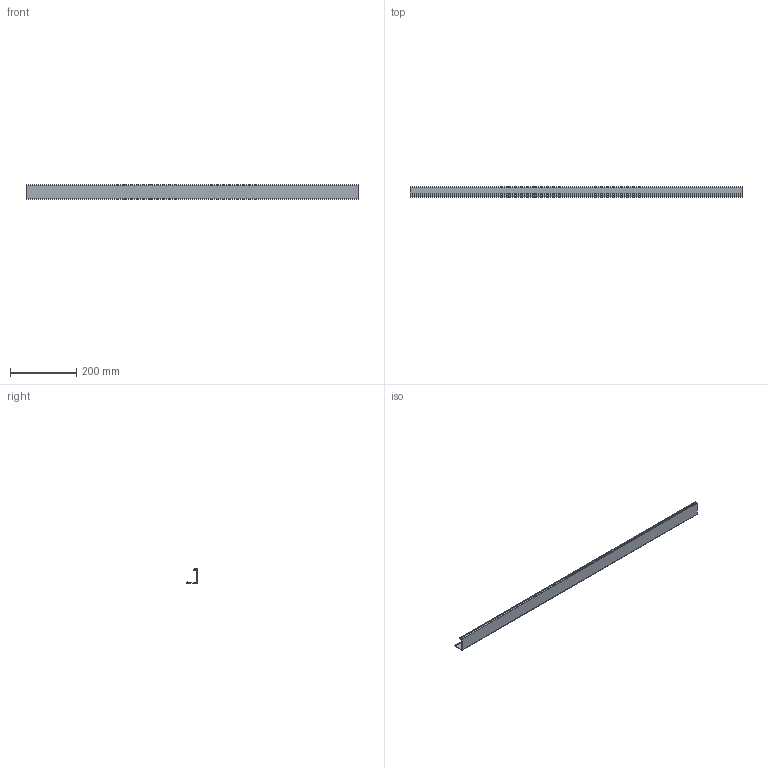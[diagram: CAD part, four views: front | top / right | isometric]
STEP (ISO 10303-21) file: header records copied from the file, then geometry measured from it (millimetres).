
FILE_DESCRIPTION (( 'STEP AP214' ), '1' );
FILE_NAME ('1.0098 Lineaarin peiteprofiili 12 musta 1000mm.STEP', '2025-09-02T08:48:20', ( '' ), ( '' ), 'SwSTEP 2.0', 'SolidWorks 2025', '' );
FILE_SCHEMA (( 'AUTOMOTIVE_DESIGN' ));
Length unit declared in the file: millimetre
Products named in the file (1): 1.0098 Lineaarin peiteprofiili 12 musta 1000mm
Bounding box: 1000 x 31 x 45 mm (x, y, z)
Volume: 134193 mm3; surface area: 184664.1 mm2
Topology: 1 solids, 1 shells, 26 faces, 72 edges, 48 vertices
Faces by surface type: cylinder 16, plane 10
Entity records: 871 total; most frequent: DIRECTION 158, CARTESIAN_POINT 147, ORIENTED_EDGE 144, EDGE_CURVE 72, AXIS2_PLACEMENT_3D 59, VERTEX_POINT 48, VECTOR 40, LINE 40
